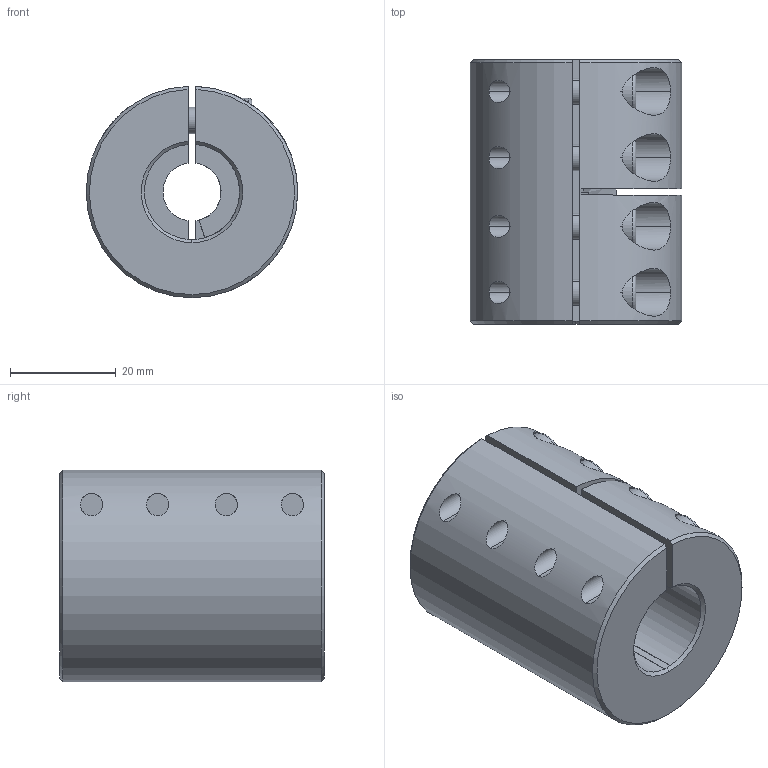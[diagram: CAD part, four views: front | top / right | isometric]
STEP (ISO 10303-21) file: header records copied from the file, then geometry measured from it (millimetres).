
FILE_DESCRIPTION (( 'STEP AP214' ), '1' );
FILE_NAME ('LL-B-D40L50-11-18½¨Ä£.STEP', '2022-07-22T00:20:24', ( '' ), ( '' ), 'SwSTEP 2.0', 'SolidWorks 2022', '' );
FILE_SCHEMA (( 'AUTOMOTIVE_DESIGN' ));
Length unit declared in the file: millimetre
Products named in the file (1): LL-B-D40L50-11-18膘耀
Bounding box: 40 x 50 x 39.99 mm (x, y, z)
Volume: 50957.8 mm3; surface area: 15478.4 mm2
Topology: 1 solids, 1 shells, 182 faces, 463 edges, 291 vertices
Faces by surface type: plane 88, cylinder 71, cone 15, torus 8
Entity records: 6017 total; most frequent: CARTESIAN_POINT 1531, DIRECTION 969, ORIENTED_EDGE 910, EDGE_CURVE 455, AXIS2_PLACEMENT_3D 377, VERTEX_POINT 291, LINE 215, VECTOR 215
